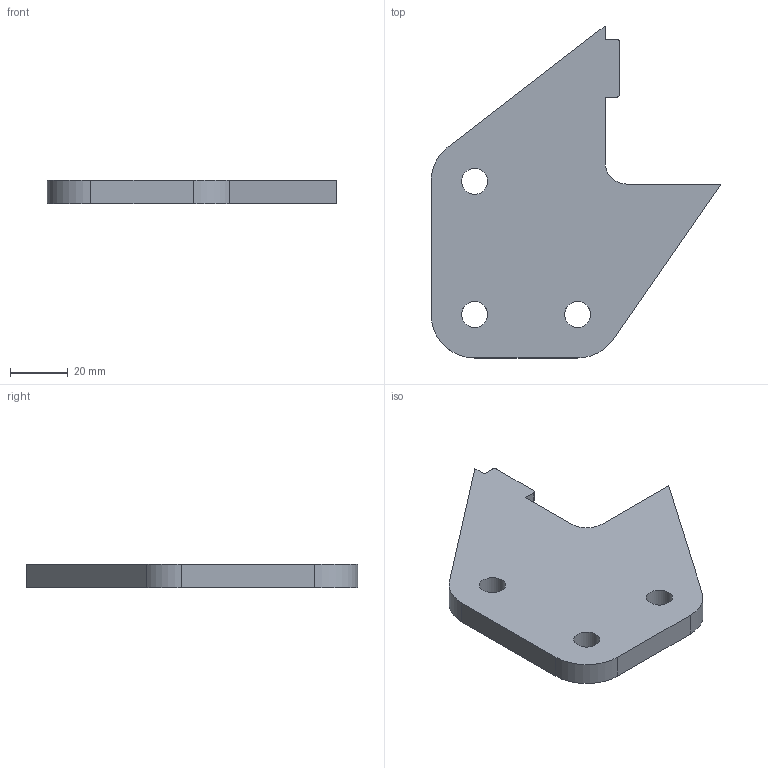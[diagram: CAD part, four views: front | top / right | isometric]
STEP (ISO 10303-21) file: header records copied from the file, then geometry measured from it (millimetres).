
FILE_DESCRIPTION(/* description */ (''),/* implementation_level */ '2;1');
FILE_NAME(/* name */ 'Pos154-Plaatwerk D= 8-S235JRG2-3st',/* time_stamp */ '2024-08-06T13:37:44+02:00',/* author */ (''),/* organization */ (''),/* preprocessor_version */ 'ST-DEVELOPER v16.5',/* originating_system */ 'HiCAD 2024 2901.2 Build 361',/* authorisation */ '');
FILE_SCHEMA (('AUTOMOTIVE_DESIGN { 1 0 10303 214 1 1 1 1 }'));
Length unit declared in the file: millimetre
Products named in the file (1): Pos154-Plaatwerk D= 8-S235JRG2-3st
Bounding box: 99.97 x 114.54 x 8 mm (x, y, z)
Volume: 51937.5 mm3; surface area: 16600.3 mm2
Topology: 1 solids, 1 shells, 21 faces, 60 edges, 41 vertices
Faces by surface type: plane 12, cylinder 9
Full cylindrical faces by diameter (mm): 9 x3
Entity records: 1224 total; most frequent: DIRECTION 114, CARTESIAN_POINT 113, PRESENTATION_STYLE_ASSIGNMENT 109, COLOUR_RGB 109, DRAUGHTING_PRE_DEFINED_CURVE_FONT 108, CURVE_STYLE 108, OVER_RIDING_STYLED_ITEM 108, ORIENTED_EDGE 108
